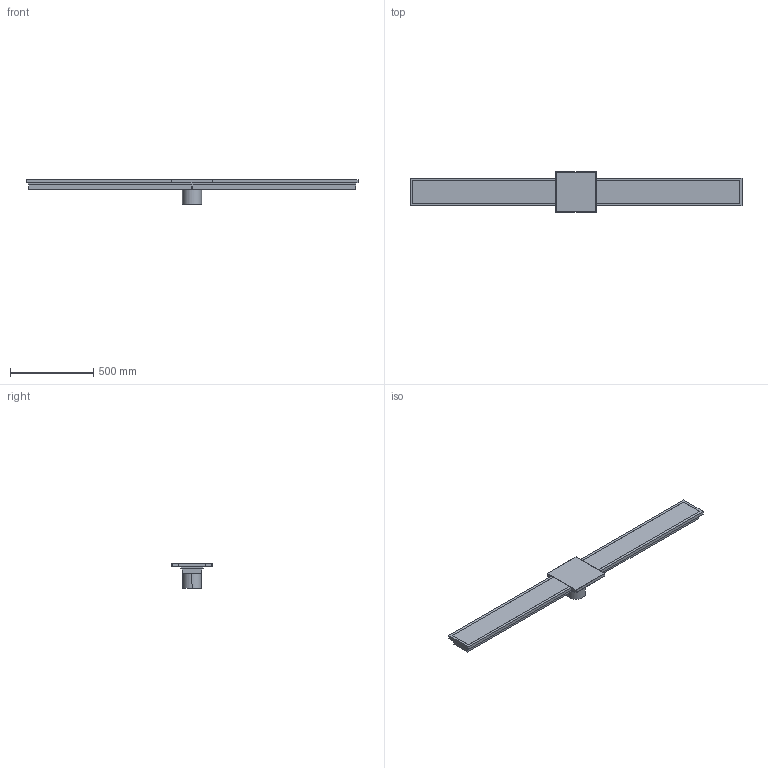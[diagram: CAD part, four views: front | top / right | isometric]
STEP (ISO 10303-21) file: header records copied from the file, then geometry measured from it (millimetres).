
FILE_DESCRIPTION(/* description */ (''),/* implementation_level */ '2;1');
FILE_NAME(/* name */ 'E:\Workspace\resitec\Packs\Kategorie\Entwässerungsrinne\STP\RS770.15.245Entwässerungsrinne mit Auslaufkasten245mm-Mitte.s.ipt.stp',/* time_stamp */ '2020-10-04T20:56:07+02:00',/* author */ ('ndmes'),/* organization */ (''),/* preprocessor_version */ 'ST-DEVELOPER v18.1',/* originating_system */ 'Autodesk Inventor 2021',/* authorisation */ '');
FILE_SCHEMA (('AUTOMOTIVE_DESIGN { 1 0 10303 214 3 1 1 }'));
Length unit declared in the file: millimetre
Products named in the file (1): RS770.15.245Entwässerungsrinne mit Auslaufkasten245mm-Mitte.s
Bounding box: 2000 x 245 x 150 mm (x, y, z)
Volume: 17630234.7 mm3; surface area: 2197530.5 mm2
Topology: 11 solids, 11 shells, 76 faces, 162 edges, 108 vertices
Faces by surface type: plane 74, cylinder 2
Entity records: 2045 total; most frequent: CARTESIAN_POINT 347, ORIENTED_EDGE 324, DIRECTION 320, EDGE_CURVE 162, LINE 158, VECTOR 158, VERTEX_POINT 108, AXIS2_PLACEMENT_3D 81
